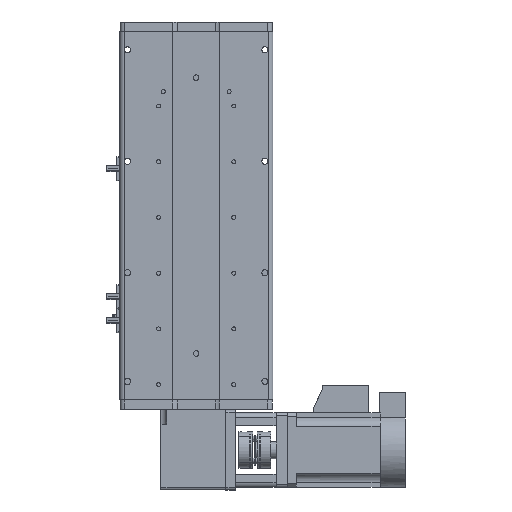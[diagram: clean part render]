
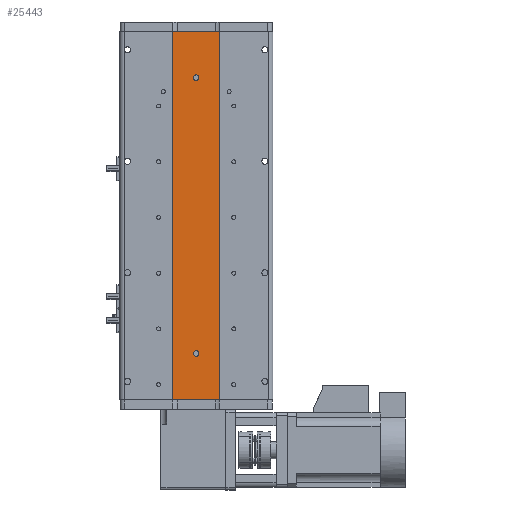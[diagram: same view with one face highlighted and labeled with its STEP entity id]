
A CAD part, front view. The second image highlights one B-rep face of the part: STEP entity #25443.
In plain terms, the highlighted planar face has unit normal (0, -1, 0).
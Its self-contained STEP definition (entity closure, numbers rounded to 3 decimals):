
#363 = VERTEX_POINT ( 'NONE', #38916 ) ;
#818 = LINE ( 'NONE', #21058, #25768 ) ;
#3837 = LINE ( 'NONE', #33545, #19754 ) ;
#4718 = EDGE_CURVE ( 'NONE', #8307, #10405, #22488, .T. ) ;
#5082 = VERTEX_POINT ( 'NONE', #26467 ) ;
#5151 = PLANE ( 'NONE',  #36100 ) ;
#5186 = VERTEX_POINT ( 'NONE', #41279 ) ;
#5443 = EDGE_CURVE ( 'NONE', #5082, #37857, #32560, .T. ) ;
#5989 = DIRECTION ( 'NONE',  ( 0., 1., 0. ) ) ;
#6748 = AXIS2_PLACEMENT_3D ( 'NONE', #26310, #5989, #29753 ) ;
#7414 = CARTESIAN_POINT ( 'NONE',  ( 25., 1., 198.5 ) ) ;
#7821 = AXIS2_PLACEMENT_3D ( 'NONE', #15330, #39178, #18738 ) ;
#7833 = CARTESIAN_POINT ( 'NONE',  ( 0., 1., 148.5 ) ) ;
#7930 = AXIS2_PLACEMENT_3D ( 'NONE', #7833, #31615, #11211 ) ;
#8307 = VERTEX_POINT ( 'NONE', #24245 ) ;
#8416 = ORIENTED_EDGE ( 'NONE', *, *, #4718, .T. ) ;
#8507 = CARTESIAN_POINT ( 'NONE',  ( 25., 1., -198.5 ) ) ;
#8566 = CARTESIAN_POINT ( 'NONE',  ( 25., 1., 198.5 ) ) ;
#10405 = VERTEX_POINT ( 'NONE', #34780 ) ;
#11211 = DIRECTION ( 'NONE',  ( 0., 0., 1. ) ) ;
#12200 = CARTESIAN_POINT ( 'NONE',  ( 25., 1., 198.5 ) ) ;
#12343 = DIRECTION ( 'NONE',  ( 1., 0., 0. ) ) ;
#14221 = DIRECTION ( 'NONE',  ( 0., 0., -1. ) ) ;
#15330 = CARTESIAN_POINT ( 'NONE',  ( 0., 1., -148.5 ) ) ;
#15549 = ORIENTED_EDGE ( 'NONE', *, *, #5443, .F. ) ;
#16843 = CIRCLE ( 'NONE', #7930, 3. ) ;
#17513 = EDGE_CURVE ( 'NONE', #5186, #363, #16843, .T. ) ;
#17707 = CARTESIAN_POINT ( 'NONE',  ( 0., 1., -148.5 ) ) ;
#18246 = EDGE_CURVE ( 'NONE', #31997, #20774, #22111, .T. ) ;
#18455 = DIRECTION ( 'NONE',  ( 0., 1., 0. ) ) ;
#18708 = EDGE_CURVE ( 'NONE', #5082, #31997, #818, .T. ) ;
#18738 = DIRECTION ( 'NONE',  ( 0., 0., 1. ) ) ;
#19754 = VECTOR ( 'NONE', #36940, 1000. ) ;
#19816 = AXIS2_PLACEMENT_3D ( 'NONE', #17707, #41573, #21142 ) ;
#20774 = VERTEX_POINT ( 'NONE', #26264 ) ;
#20863 = FACE_BOUND ( 'NONE', #22255, .T. ) ;
#21042 = VECTOR ( 'NONE', #42258, 1000. ) ;
#21058 = CARTESIAN_POINT ( 'NONE',  ( -25., 1., 198.5 ) ) ;
#21142 = DIRECTION ( 'NONE',  ( 0., 0., 1. ) ) ;
#22111 = LINE ( 'NONE', #8507, #21042 ) ;
#22255 = EDGE_LOOP ( 'NONE', ( #23447, #25155 ) ) ;
#22488 = CIRCLE ( 'NONE', #19816, 3. ) ;
#23112 = ORIENTED_EDGE ( 'NONE', *, *, #36585, .T. ) ;
#23447 = ORIENTED_EDGE ( 'NONE', *, *, #24737, .T. ) ;
#23489 = VECTOR ( 'NONE', #12343, 1000. ) ;
#23914 = CARTESIAN_POINT ( 'NONE',  ( -25., 1., -198.5 ) ) ;
#24245 = CARTESIAN_POINT ( 'NONE',  ( 0., 1., -151.5 ) ) ;
#24542 = EDGE_LOOP ( 'NONE', ( #8416, #23112 ) ) ;
#24737 = EDGE_CURVE ( 'NONE', #363, #5186, #28408, .T. ) ;
#25155 = ORIENTED_EDGE ( 'NONE', *, *, #17513, .T. ) ;
#25443 = ADVANCED_FACE ( 'NONE', ( #29932, #20863, #38987 ), #5151, .F. ) ;
#25768 = VECTOR ( 'NONE', #14221, 1000. ) ;
#26264 = CARTESIAN_POINT ( 'NONE',  ( 25., 1., -198.5 ) ) ;
#26310 = CARTESIAN_POINT ( 'NONE',  ( 0., 1., 148.5 ) ) ;
#26467 = CARTESIAN_POINT ( 'NONE',  ( -25., 1., 198.5 ) ) ;
#28362 = CIRCLE ( 'NONE', #7821, 3. ) ;
#28408 = CIRCLE ( 'NONE', #6748, 3. ) ;
#29753 = DIRECTION ( 'NONE',  ( 0., 0., 1. ) ) ;
#29932 = FACE_BOUND ( 'NONE', #24542, .T. ) ;
#30641 = ORIENTED_EDGE ( 'NONE', *, *, #18246, .T. ) ;
#31615 = DIRECTION ( 'NONE',  ( 0., 1., 0. ) ) ;
#31997 = VERTEX_POINT ( 'NONE', #23914 ) ;
#32560 = LINE ( 'NONE', #12200, #23489 ) ;
#33545 = CARTESIAN_POINT ( 'NONE',  ( 25., 1., 198.5 ) ) ;
#34780 = CARTESIAN_POINT ( 'NONE',  ( 0., 1., -145.5 ) ) ;
#35757 = DIRECTION ( 'NONE',  ( 0., 0., 1. ) ) ;
#36100 = AXIS2_PLACEMENT_3D ( 'NONE', #8566, #18455, #35757 ) ;
#36585 = EDGE_CURVE ( 'NONE', #10405, #8307, #28362, .T. ) ;
#36940 = DIRECTION ( 'NONE',  ( 0., 0., -1. ) ) ;
#37857 = VERTEX_POINT ( 'NONE', #7414 ) ;
#38143 = EDGE_CURVE ( 'NONE', #37857, #20774, #3837, .T. ) ;
#38243 = ORIENTED_EDGE ( 'NONE', *, *, #38143, .F. ) ;
#38405 = ORIENTED_EDGE ( 'NONE', *, *, #18708, .T. ) ;
#38916 = CARTESIAN_POINT ( 'NONE',  ( 0., 1., 145.5 ) ) ;
#38987 = FACE_OUTER_BOUND ( 'NONE', #42487, .T. ) ;
#39178 = DIRECTION ( 'NONE',  ( 0., 1., 0. ) ) ;
#41279 = CARTESIAN_POINT ( 'NONE',  ( 0., 1., 151.5 ) ) ;
#41573 = DIRECTION ( 'NONE',  ( 0., 1., 0. ) ) ;
#42258 = DIRECTION ( 'NONE',  ( 1., 0., 0. ) ) ;
#42487 = EDGE_LOOP ( 'NONE', ( #30641, #38243, #15549, #38405 ) ) ;
